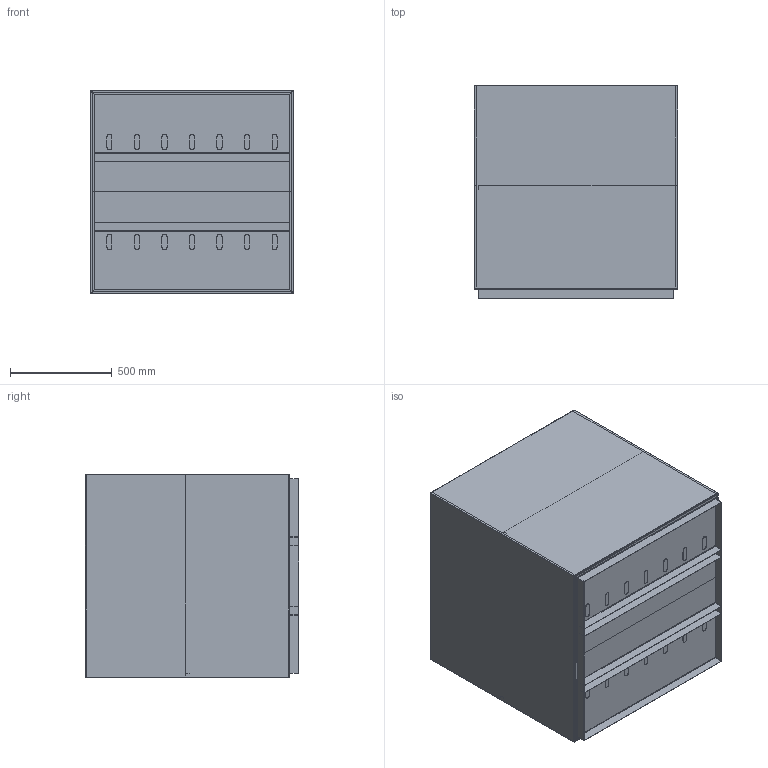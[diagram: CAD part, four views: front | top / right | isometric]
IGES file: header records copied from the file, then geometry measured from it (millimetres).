
Start section: SolidWorks IGES file using analytic representation for surfaces
Global section: file name: C:\VaultDeCastelli\Progetti\DC\PESO LEGGERO PRODOTTI\Ale\DeCastelli-3D-Cube 104.igs; native system: SolidWorks 2022; preprocessor: SolidWorks 2022; author: AlessandroP; date: 240802.102734; units: millimetre
Bounding box: 1000 x 1045 x 1000 mm (x, y, z)
Surface area: 10891945.2 mm2 (no closed solid volume)
Topology: 0 solids, 0 shells, 147 faces, 1320 edges, 1320 vertices
Faces by surface type: bspline 91, revolution 56
